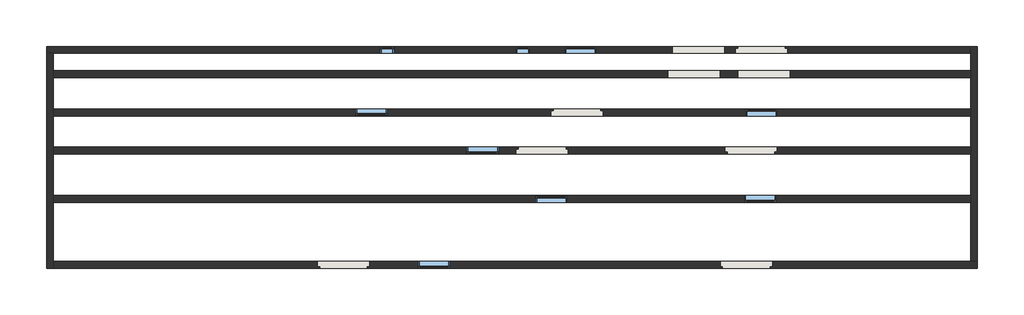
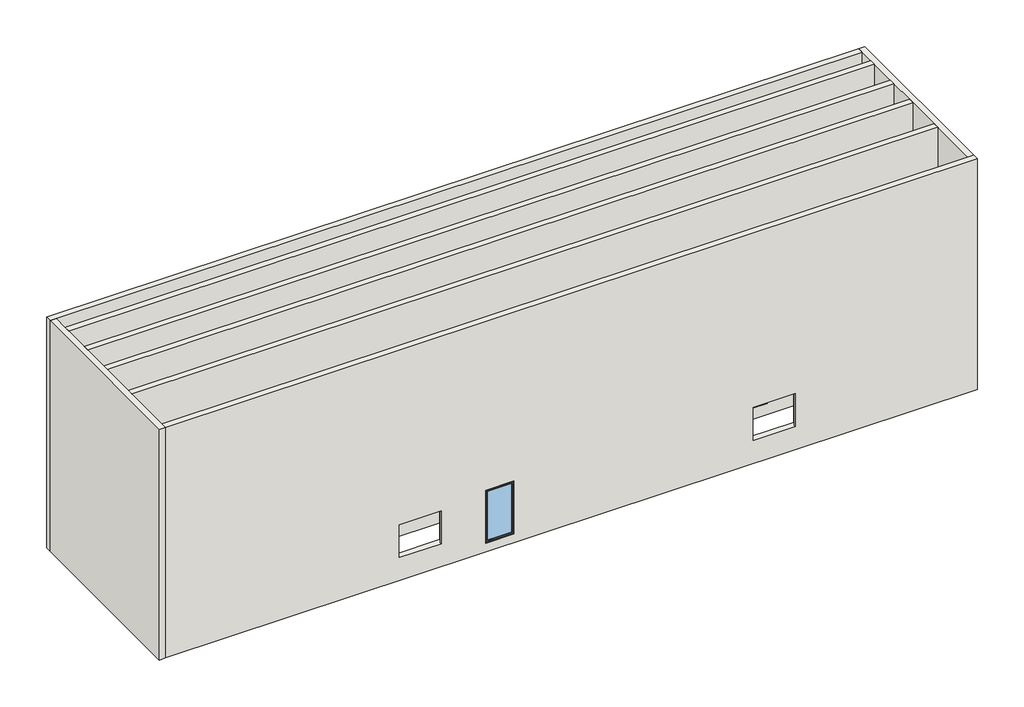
# One storey, incomplete: 9 windows, 8 walls.
"""IFC4 building model written with IfcOpenShell, lengths in millimetres."""

from ifc_helpers import new_model, si_unit, frame, origin, place, context, project, spatial, polyline, outline, extrude, faceted_brep, transform, mapped, element, save
from components import window_8205b201, window_ed32443c, window_5d6e8bc1

model = new_model("IFC4")

# Units and contexts
model_context = context("Model", 3, world=origin())
ifc_project = project(units=[si_unit("LENGTHUNIT", "METRE", prefix="MILLI")], contexts=[model_context])

# Site, building, storey
site = spatial("IfcSite", under=ifc_project)
building = spatial("IfcBuilding", under=site)
storey = spatial("IfcBuildingStorey", under=building, Name="Уровень 1", Elevation=0.0)

# Walls
placement = place(None, origin())
element("IfcWall", 1, ObjectType="Типовой - 200мм", at=placement, inside=storey, context=model_context, shape_type="Brep", body=[
    faceted_brep([(-12196.7589476, 8103.8271747, 0.0), (-11996.7589476, 8103.8271747, 0.0), (14403.2410524, 8103.8271747, 0.0), (14403.2410524, 8103.8271747, 8000.0), (-11996.7589476, 8103.8271747, 8000.0), (-12196.7589476, 8103.8271747, 8000.0), (-2596.7589476, 8103.8271747, 915.0), (-2596.7589476, 8103.8271747, 1525.0), (-2190.7589476, 8103.8271747, 1525.0), (-2190.7589476, 8103.8271747, 915.0), (1309.2410524, 8103.8271747, 915.0), (1309.2410524, 8103.8271747, 1525.0), (1715.2410524, 8103.8271747, 1525.0), (1715.2410524, 8103.8271747, 915.0), (3630.2410524, 8103.8271747, 305.0), (2715.2410524, 8103.8271747, 305.0), (2715.2410524, 8103.8271747, 2135.0), (3630.2410524, 8103.8271747, 2135.0), (5821.2410524, 8103.8271747, 2010.0), (7331.2410524, 8103.8271747, 2010.0), (7331.2410524, 8103.8271747, 800.0), (5821.2410524, 8103.8271747, 800.0), (7631.2410524, 8103.8271747, 2010.0), (9141.2410524, 8103.8271747, 2010.0), (9141.2410524, 8103.8271747, 800.0), (7631.2410524, 8103.8271747, 800.0), (-12196.7589476, 8303.8271747, 0.0), (-12196.7589476, 8303.8271747, 8000.0), (14403.2410524, 8303.8271747, 8000.0), (14403.2410524, 8303.8271747, 0.0), (-2596.7589476, 8303.8271747, 915.0), (-2190.7589476, 8303.8271747, 915.0), (-2190.7589476, 8303.8271747, 1525.0), (-2596.7589476, 8303.8271747, 1525.0), (1309.2410524, 8303.8271747, 915.0), (1715.2410524, 8303.8271747, 915.0), (1715.2410524, 8303.8271747, 1525.0), (1309.2410524, 8303.8271747, 1525.0), (3630.2410524, 8303.8271747, 305.0), (3630.2410524, 8303.8271747, 2135.0), (2715.2410524, 8303.8271747, 2135.0), (2715.2410524, 8303.8271747, 305.0), (7331.2410524, 8303.8271747, 2010.0), (5821.2410524, 8303.8271747, 2010.0), (5821.2410524, 8303.8271747, 800.0), (5891.2410524, 8303.8271747, 800.0), (7261.2410524, 8303.8271747, 800.0), (7331.2410524, 8303.8271747, 800.0), (7701.2410524, 8303.8271747, 800.0), (9071.2410524, 8303.8271747, 800.0), (9071.2410524, 8303.8271747, 1940.0), (7701.2410524, 8303.8271747, 1940.0), (9141.2410524, 8253.8271747, 2010.0), (7631.2410524, 8253.8271747, 2010.0), (7631.2410524, 8253.8271747, 800.0), (9141.2410524, 8253.8271747, 800.0), (9071.2410524, 8253.8271747, 800.0), (7701.2410524, 8253.8271747, 800.0), (7701.2410524, 8253.8271747, 1940.0), (9071.2410524, 8253.8271747, 1940.0)], [[[0, 1, 2, 3, 4, 5], [6, 7, 8, 9], [10, 11, 12, 13], [14, 15, 16, 17], [18, 19, 20, 21], [22, 23, 24, 25]], [[26, 27, 28, 29], [30, 31, 32, 33], [34, 35, 36, 37], [38, 39, 40, 41], [42, 43, 44, 45, 46, 47], [48, 49, 50, 51]], [[2, 1, 0, 26, 29]], [[5, 4, 3, 28, 27]], [[0, 5, 27, 26]], [[3, 2, 29, 28]], [[7, 6, 30, 33]], [[8, 7, 33, 32]], [[9, 8, 32, 31]], [[6, 9, 31, 30]], [[11, 10, 34, 37]], [[12, 11, 37, 36]], [[13, 12, 36, 35]], [[10, 13, 35, 34]], [[39, 38, 14, 17]], [[40, 39, 17, 16]], [[41, 40, 16, 15]], [[38, 41, 15, 14]], [[19, 18, 43, 42]], [[18, 21, 44, 43]], [[21, 20, 47, 46, 45, 44]], [[42, 47, 20, 19]], [[52, 23, 22, 53]], [[53, 22, 25, 54]], [[25, 24, 55, 56, 49, 48, 57, 54]], [[55, 24, 23, 52]], [[52, 53, 54, 57, 58, 59, 56, 55]], [[59, 58, 51, 50]], [[58, 57, 48, 51]], [[50, 49, 56, 59]]]),
])
element("IfcWall", 2, ObjectType="Типовой - 200мм", at=placement, inside=storey, context=model_context, shape_type="Brep", body=[
    faceted_brep([(-11996.7589476, 1903.8271747, 0.0), (-11996.7589476, 2103.8271747, 0.0), (-11996.7589476, 3803.8271747, 0.0), (-11996.7589476, 4003.8271747, 0.0), (-11996.7589476, 5203.8271747, 0.0), (-11996.7589476, 5403.8271747, 0.0), (-11996.7589476, 6303.8271747, 0.0), (-11996.7589476, 6503.8271747, 0.0), (-11996.7589476, 7403.8271747, 0.0), (-11996.7589476, 7603.8271747, 0.0), (-11996.7589476, 8103.8271747, 0.0), (-11996.7589476, 8103.8271747, 8000.0), (-11996.7589476, 7603.8271747, 8000.0), (-11996.7589476, 7403.8271747, 8000.0), (-11996.7589476, 6503.8271747, 8000.0), (-11996.7589476, 6303.8271747, 8000.0), (-11996.7589476, 5403.8271747, 8000.0), (-11996.7589476, 5203.8271747, 8000.0), (-11996.7589476, 4003.8271747, 8000.0), (-11996.7589476, 3803.8271747, 8000.0), (-11996.7589476, 2103.8271747, 8000.0), (-11996.7589476, 1903.8271747, 8000.0), (-12196.7589476, 1903.8271747, 0.0), (-12196.7589476, 1903.8271747, 8000.0), (-12196.7589476, 8103.8271747, 8000.0), (-12196.7589476, 8103.8271747, 0.0)], [[[0, 1, 2, 3, 4, 5, 6, 7, 8, 9, 10, 11, 12, 13, 14, 15, 16, 17, 18, 19, 20, 21]], [[22, 23, 24, 25]], [[10, 9, 8, 7, 6, 5, 4, 3, 2, 1, 0, 22, 25]], [[21, 20, 19, 18, 17, 16, 15, 14, 13, 12, 11, 24, 23]], [[0, 21, 23, 22]], [[11, 10, 25, 24]]]),
])
element("IfcWall", 3, ObjectType="Типовой - 200мм", at=placement, inside=storey, context=model_context, shape_type="Brep", body=[
    faceted_brep([(14603.2410524, 2103.8271747, 0.0), (14403.2410524, 2103.8271747, 0.0), (-11996.7589476, 2103.8271747, 0.0), (-11996.7589476, 2103.8271747, 8000.0), (14403.2410524, 2103.8271747, 8000.0), (14603.2410524, 2103.8271747, 8000.0), (-581.7589476, 2103.8271747, 305.0), (-581.7589476, 2103.8271747, 2135.0), (-1496.7589476, 2103.8271747, 2135.0), (-1496.7589476, 2103.8271747, 305.0), (-2896.7589476, 2103.8271747, 2010.0), (-4406.7589476, 2103.8271747, 2010.0), (-4406.7589476, 2103.8271747, 800.0), (-2896.7589476, 2103.8271747, 800.0), (8703.2410524, 2103.8271747, 2010.0), (7193.2410524, 2103.8271747, 2010.0), (7193.2410524, 2103.8271747, 800.0), (8703.2410524, 2103.8271747, 800.0), (14603.2410524, 1903.8271747, 0.0), (14603.2410524, 1903.8271747, 8000.0), (-11996.7589476, 1903.8271747, 8000.0), (-11996.7589476, 1903.8271747, 0.0), (-581.7589476, 1903.8271747, 305.0), (-1496.7589476, 1903.8271747, 305.0), (-1496.7589476, 1903.8271747, 2135.0), (-581.7589476, 1903.8271747, 2135.0), (8633.2410524, 1903.8271747, 800.0), (7263.2410524, 1903.8271747, 800.0), (7263.2410524, 1903.8271747, 1940.0), (8633.2410524, 1903.8271747, 1940.0), (-2966.7589476, 1903.8271747, 800.0), (-4336.7589476, 1903.8271747, 800.0), (-4336.7589476, 1903.8271747, 1940.0), (-2966.7589476, 1903.8271747, 1940.0), (-4406.7589476, 1953.8271747, 2010.0), (-2896.7589476, 1953.8271747, 2010.0), (-2896.7589476, 1953.8271747, 800.0), (-4406.7589476, 1953.8271747, 800.0), (-4336.7589476, 1953.8271747, 800.0), (-2966.7589476, 1953.8271747, 800.0), (8703.2410524, 1953.8271747, 2010.0), (7193.2410524, 1953.8271747, 2010.0), (7193.2410524, 1953.8271747, 800.0), (7263.2410524, 1953.8271747, 800.0), (8633.2410524, 1953.8271747, 800.0), (8703.2410524, 1953.8271747, 800.0), (8633.2410524, 1953.8271747, 1940.0), (7263.2410524, 1953.8271747, 1940.0), (-2966.7589476, 1953.8271747, 1940.0), (-4336.7589476, 1953.8271747, 1940.0)], [[[0, 1, 2, 3, 4, 5], [6, 7, 8, 9], [10, 11, 12, 13], [14, 15, 16, 17]], [[18, 19, 20, 21], [22, 23, 24, 25], [26, 27, 28, 29], [30, 31, 32, 33]], [[2, 1, 0, 18, 21]], [[5, 4, 3, 20, 19]], [[0, 5, 19, 18]], [[3, 2, 21, 20]], [[7, 6, 22, 25]], [[8, 7, 25, 24]], [[9, 8, 24, 23]], [[6, 9, 23, 22]], [[34, 11, 10, 35]], [[35, 10, 13, 36]], [[13, 12, 37, 38, 31, 30, 39, 36]], [[37, 12, 11, 34]], [[40, 41, 15, 14]], [[41, 42, 16, 15]], [[16, 42, 43, 27, 26, 44, 45, 17]], [[45, 40, 14, 17]], [[40, 45, 44, 46, 47, 43, 42, 41]], [[46, 29, 28, 47]], [[47, 28, 27, 43]], [[29, 46, 44, 26]], [[34, 35, 36, 39, 48, 49, 38, 37]], [[49, 48, 33, 32]], [[48, 39, 30, 33]], [[32, 31, 38, 49]]]),
])
element("IfcWall", 4, ObjectType="Типовой - 200мм", at=placement, inside=storey, context=model_context, shape_type="Brep", body=[
    faceted_brep([(14403.2410524, 8303.8271747, 0.0), (14403.2410524, 8103.8271747, 0.0), (14403.2410524, 7603.8271747, 0.0), (14403.2410524, 7403.8271747, 0.0), (14403.2410524, 6503.8271747, 0.0), (14403.2410524, 6303.8271747, 0.0), (14403.2410524, 5403.8271747, 0.0), (14403.2410524, 5203.8271747, 0.0), (14403.2410524, 4003.8271747, 0.0), (14403.2410524, 3803.8271747, 0.0), (14403.2410524, 2103.8271747, 0.0), (14403.2410524, 2103.8271747, 8000.0), (14403.2410524, 3803.8271747, 8000.0), (14403.2410524, 4003.8271747, 8000.0), (14403.2410524, 5203.8271747, 8000.0), (14403.2410524, 5403.8271747, 8000.0), (14403.2410524, 6303.8271747, 8000.0), (14403.2410524, 6503.8271747, 8000.0), (14403.2410524, 7403.8271747, 8000.0), (14403.2410524, 7603.8271747, 8000.0), (14403.2410524, 8103.8271747, 8000.0), (14403.2410524, 8303.8271747, 8000.0), (14603.2410524, 8303.8271747, 0.0), (14603.2410524, 8303.8271747, 8000.0), (14603.2410524, 2103.8271747, 8000.0), (14603.2410524, 2103.8271747, 0.0)], [[[0, 1, 2, 3, 4, 5, 6, 7, 8, 9, 10, 11, 12, 13, 14, 15, 16, 17, 18, 19, 20, 21]], [[22, 23, 24, 25]], [[10, 9, 8, 7, 6, 5, 4, 3, 2, 1, 0, 22, 25]], [[21, 20, 19, 18, 17, 16, 15, 14, 13, 12, 11, 24, 23]], [[0, 21, 23, 22]], [[11, 10, 25, 24]]]),
])
element("IfcWall", 5, ObjectType="Типовой - 200мм", at=placement, inside=storey, context=model_context, shape_type="Brep", body=[
    faceted_brep([(-11996.7589476, 6303.8271747, 0.0), (14403.2410524, 6303.8271747, 0.0), (14403.2410524, 6303.8271747, 8000.0), (-11996.7589476, 6303.8271747, 8000.0), (-2381.7589476, 6303.8271747, 305.0), (-3296.7589476, 6303.8271747, 305.0), (-3296.7589476, 6303.8271747, 2135.0), (-2381.7589476, 6303.8271747, 2135.0), (2318.2410524, 6303.8271747, 2010.0), (3828.2410524, 6303.8271747, 2010.0), (3828.2410524, 6303.8271747, 800.0), (2318.2410524, 6303.8271747, 800.0), (7928.2410524, 6303.8271747, 305.0), (7928.2410524, 6303.8271747, 2135.0), (8843.2410524, 6303.8271747, 2135.0), (8843.2410524, 6303.8271747, 305.0), (-11996.7589476, 6503.8271747, 0.0), (-11996.7589476, 6503.8271747, 8000.0), (14403.2410524, 6503.8271747, 8000.0), (14403.2410524, 6503.8271747, 0.0), (-2381.7589476, 6503.8271747, 305.0), (-2381.7589476, 6503.8271747, 2135.0), (-3296.7589476, 6503.8271747, 2135.0), (-3296.7589476, 6503.8271747, 305.0), (7928.2410524, 6503.8271747, 305.0), (8843.2410524, 6503.8271747, 305.0), (8843.2410524, 6503.8271747, 2135.0), (7928.2410524, 6503.8271747, 2135.0), (2388.2410524, 6503.8271747, 800.0), (3758.2410524, 6503.8271747, 800.0), (3758.2410524, 6503.8271747, 1940.0), (2388.2410524, 6503.8271747, 1940.0), (2318.2410524, 6453.8271747, 2010.0), (3828.2410524, 6453.8271747, 2010.0), (3828.2410524, 6453.8271747, 800.0), (3758.2410524, 6453.8271747, 800.0), (2388.2410524, 6453.8271747, 800.0), (2318.2410524, 6453.8271747, 800.0), (2388.2410524, 6453.8271747, 1940.0), (3758.2410524, 6453.8271747, 1940.0)], [[[0, 1, 2, 3], [4, 5, 6, 7], [8, 9, 10, 11], [12, 13, 14, 15]], [[16, 17, 18, 19], [20, 21, 22, 23], [24, 25, 26, 27], [28, 29, 30, 31]], [[1, 0, 16, 19]], [[3, 2, 18, 17]], [[0, 3, 17, 16]], [[2, 1, 19, 18]], [[21, 20, 4, 7]], [[22, 21, 7, 6]], [[23, 22, 6, 5]], [[20, 23, 5, 4]], [[32, 33, 9, 8]], [[33, 34, 10, 9]], [[10, 34, 35, 29, 28, 36, 37, 11]], [[37, 32, 8, 11]], [[13, 12, 24, 27]], [[14, 13, 27, 26]], [[15, 14, 26, 25]], [[12, 15, 25, 24]], [[32, 37, 36, 38, 39, 35, 34, 33]], [[38, 31, 30, 39]], [[39, 30, 29, 35]], [[31, 38, 36, 28]]]),
])
element("IfcWall", 6, ObjectType="Типовой - 200мм", at=placement, inside=storey, context=model_context, shape_type="Brep", body=[
    faceted_brep([(-11996.7589476, 5203.8271747, 0.0), (14403.2410524, 5203.8271747, 0.0), (14403.2410524, 5203.8271747, 8000.0), (-11996.7589476, 5203.8271747, 8000.0), (818.2410524, 5203.8271747, 305.0), (-96.7589476, 5203.8271747, 305.0), (-96.7589476, 5203.8271747, 2135.0), (818.2410524, 5203.8271747, 2135.0), (1318.2410524, 5203.8271747, 2010.0), (2828.2410524, 5203.8271747, 2010.0), (2828.2410524, 5203.8271747, 800.0), (1318.2410524, 5203.8271747, 800.0), (8768.2410524, 5203.8271747, 800.0), (7398.2410524, 5203.8271747, 800.0), (7398.2410524, 5203.8271747, 1940.0), (8768.2410524, 5203.8271747, 1940.0), (-11996.7589476, 5403.8271747, 0.0), (-11996.7589476, 5403.8271747, 8000.0), (14403.2410524, 5403.8271747, 8000.0), (14403.2410524, 5403.8271747, 0.0), (818.2410524, 5403.8271747, 305.0), (818.2410524, 5403.8271747, 2135.0), (-96.7589476, 5403.8271747, 2135.0), (-96.7589476, 5403.8271747, 305.0), (8838.2410524, 5403.8271747, 2010.0), (7328.2410524, 5403.8271747, 2010.0), (7328.2410524, 5403.8271747, 800.0), (8838.2410524, 5403.8271747, 800.0), (1388.2410524, 5403.8271747, 800.0), (2758.2410524, 5403.8271747, 800.0), (2758.2410524, 5403.8271747, 1940.0), (1388.2410524, 5403.8271747, 1940.0), (1318.2410524, 5353.8271747, 2010.0), (2828.2410524, 5353.8271747, 2010.0), (2828.2410524, 5353.8271747, 800.0), (2758.2410524, 5353.8271747, 800.0), (1388.2410524, 5353.8271747, 800.0), (1318.2410524, 5353.8271747, 800.0), (8838.2410524, 5253.8271747, 2010.0), (7328.2410524, 5253.8271747, 2010.0), (7328.2410524, 5253.8271747, 800.0), (7398.2410524, 5253.8271747, 800.0), (8768.2410524, 5253.8271747, 800.0), (8838.2410524, 5253.8271747, 800.0), (1388.2410524, 5353.8271747, 1940.0), (2758.2410524, 5353.8271747, 1940.0), (8768.2410524, 5253.8271747, 1940.0), (7398.2410524, 5253.8271747, 1940.0)], [[[0, 1, 2, 3], [4, 5, 6, 7], [8, 9, 10, 11], [12, 13, 14, 15]], [[16, 17, 18, 19], [20, 21, 22, 23], [24, 25, 26, 27], [28, 29, 30, 31]], [[1, 0, 16, 19]], [[3, 2, 18, 17]], [[0, 3, 17, 16]], [[2, 1, 19, 18]], [[21, 20, 4, 7]], [[22, 21, 7, 6]], [[23, 22, 6, 5]], [[20, 23, 5, 4]], [[32, 33, 9, 8]], [[33, 34, 10, 9]], [[10, 34, 35, 29, 28, 36, 37, 11]], [[37, 32, 8, 11]], [[38, 39, 25, 24]], [[39, 40, 26, 25]], [[26, 40, 41, 13, 12, 42, 43, 27]], [[43, 38, 24, 27]], [[32, 37, 36, 44, 45, 35, 34, 33]], [[44, 31, 30, 45]], [[45, 30, 29, 35]], [[31, 44, 36, 28]], [[38, 43, 42, 46, 47, 41, 40, 39]], [[46, 15, 14, 47]], [[47, 14, 13, 41]], [[15, 46, 42, 12]]]),
])
element("IfcWall", 7, ObjectType="Типовой - 200мм", at=placement, inside=storey, context=model_context, shape_type="SweptSolid", body=[
    extrude(outline(polyline([(0.0, -11996.7589476), (0.0, 14403.2410524), (8000.0, 14403.2410524), (8000.0, -11996.7589476), (0.0, -11996.7589476)]), holes=[polyline([(305.0, 2793.2410524), (305.0, 1878.2410524), (2135.0, 1878.2410524), (2135.0, 2793.2410524), (305.0, 2793.2410524)]), polyline([(395.0, 8808.2410524), (395.0, 7893.2410524), (2225.0, 7893.2410524), (2225.0, 8808.2410524), (395.0, 8808.2410524)])]), frame((0.0, 3803.8271747, 0.0), z_axis=(0.0, 1.0, 0.0), x_axis=(0.0, 0.0, 1.0)), (0.0, 0.0, 1.0), 200.0),
])
element("IfcWall", 8, ObjectType="Типовой - 200мм", at=placement, inside=storey, context=model_context, shape_type="Brep", body=[
    faceted_brep([(-11996.7589476, 7403.8271747, 0.0), (14403.2410524, 7403.8271747, 0.0), (14403.2410524, 7403.8271747, 8000.0), (-11996.7589476, 7403.8271747, 8000.0), (5693.2410524, 7403.8271747, 2010.0), (7203.2410524, 7403.8271747, 2010.0), (7203.2410524, 7403.8271747, 800.0), (5693.2410524, 7403.8271747, 800.0), (7703.2410524, 7403.8271747, 2010.0), (9213.2410524, 7403.8271747, 2010.0), (9213.2410524, 7403.8271747, 800.0), (7703.2410524, 7403.8271747, 800.0), (-11996.7589476, 7603.8271747, 0.0), (-11996.7589476, 7603.8271747, 8000.0), (14403.2410524, 7603.8271747, 8000.0), (14403.2410524, 7603.8271747, 0.0), (7203.2410524, 7603.8271747, 2010.0), (5693.2410524, 7603.8271747, 2010.0), (5693.2410524, 7603.8271747, 800.0), (5763.2410524, 7603.8271747, 800.0), (7133.2410524, 7603.8271747, 800.0), (7203.2410524, 7603.8271747, 800.0), (9213.2410524, 7603.8271747, 2010.0), (7703.2410524, 7603.8271747, 2010.0), (7703.2410524, 7603.8271747, 800.0), (7773.2410524, 7603.8271747, 800.0), (9143.2410524, 7603.8271747, 800.0), (9213.2410524, 7603.8271747, 800.0)], [[[0, 1, 2, 3], [4, 5, 6, 7], [8, 9, 10, 11]], [[12, 13, 14, 15], [16, 17, 18, 19, 20, 21], [22, 23, 24, 25, 26, 27]], [[1, 0, 12, 15]], [[3, 2, 14, 13]], [[0, 3, 13, 12]], [[2, 1, 15, 14]], [[4, 17, 16, 5]], [[5, 16, 21, 6]], [[6, 21, 20, 19, 18, 7]], [[17, 4, 7, 18]], [[8, 23, 22, 9]], [[9, 22, 27, 10]], [[10, 27, 26, 25, 24, 11]], [[23, 8, 11, 24]]]),
])

# Windows
window_shape = window_8205b201(model_context)
element("IfcWindow", 9, ObjectType="Фиксированные : 0406 x 0610 мм", at=placement, inside=storey, context=model_context, shape_type="MappedRepresentation", body=[
    mapped(window_shape, transform((-2393.7589476, 8190.8271747, 0.0), x_axis=(1.0, 0.0, 0.0), y_axis=(0.0, 1.0, 0.0), z_axis=(0.0, 0.0, 1.0))),
])
element("IfcWindow", 10, ObjectType="Фиксированные : 0406 x 0610 мм", at=placement, inside=storey, context=model_context, shape_type="MappedRepresentation", body=[
    mapped(window_shape, transform((1512.2410524, 8190.8271747, 0.0), x_axis=(1.0, 0.0, 0.0), y_axis=(0.0, 1.0, 0.0), z_axis=(0.0, 0.0, 1.0))),
])
window_2_shape = window_ed32443c(model_context)
element("IfcWindow", 11, ObjectType="Фиксированные : 0915 x 1830 мм", at=placement, inside=storey, context=model_context, shape_type="MappedRepresentation", body=[
    mapped(window_2_shape, transform((3172.7410524, 8190.8271747, 0.0), x_axis=(-1.0, 0.0, 0.0), y_axis=(0.0, -1.0, 0.0), z_axis=(0.0, 0.0, 1.0))),
])
element("IfcWindow", 12, ObjectType="Фиксированные : 0915 x 1830 мм", at=placement, inside=storey, context=model_context, shape_type="MappedRepresentation", body=[
    mapped(window_2_shape, transform((2335.7410524, 3890.8271747, 0.0), x_axis=(-1.0, 0.0, 0.0), y_axis=(0.0, -1.0, 0.0), z_axis=(0.0, 0.0, 1.0))),
])
window_3_shape = window_5d6e8bc1(model_context)
element("IfcWindow", 13, ObjectType="Фиксированные : 0915 x 1830 мм", at=placement, inside=storey, context=model_context, shape_type="MappedRepresentation", body=[
    mapped(window_3_shape, transform((-2839.2589476, 6416.8271747, 0.0), x_axis=(-1.0, 0.0, 0.0), y_axis=(0.0, -1.0, 0.0), z_axis=(0.0, 0.0, 1.0))),
])
element("IfcWindow", 14, ObjectType="Фиксированные : 0915 x 1830 мм", at=placement, inside=storey, context=model_context, shape_type="MappedRepresentation", body=[
    mapped(window_3_shape, transform((360.7410524, 5316.8271747, 0.0), x_axis=(-1.0, 0.0, 0.0), y_axis=(0.0, -1.0, 0.0), z_axis=(0.0, 0.0, 1.0))),
])
element("IfcWindow", 15, ObjectType="Фиксированные : 0915 x 1830 мм", at=placement, inside=storey, context=model_context, shape_type="MappedRepresentation", body=[
    mapped(window_3_shape, transform((-1039.2589476, 2016.8271747, 0.0), x_axis=(-1.0, 0.0, 0.0), y_axis=(0.0, -1.0, 0.0), z_axis=(0.0, 0.0, 1.0))),
])
element("IfcWindow", 16, ObjectType="Фиксированные : 0915 x 1830 мм", at=placement, inside=storey, context=model_context, shape_type="MappedRepresentation", body=[
    mapped(window_3_shape, transform((8350.7410524, 3916.8271747, 90.0), x_axis=(-1.0, 0.0, 0.0), y_axis=(0.0, -1.0, 0.0), z_axis=(0.0, 0.0, 1.0))),
])
element("IfcWindow", 17, ObjectType="Фиксированные : 0915 x 1830 мм", at=placement, inside=storey, context=model_context, shape_type="MappedRepresentation", body=[
    mapped(window_3_shape, transform((8385.7410524, 6390.8271747, 0.0), x_axis=(1.0, 0.0, 0.0), y_axis=(0.0, 1.0, 0.0), z_axis=(0.0, 0.0, 1.0))),
])

save(model, "model.ifc")
